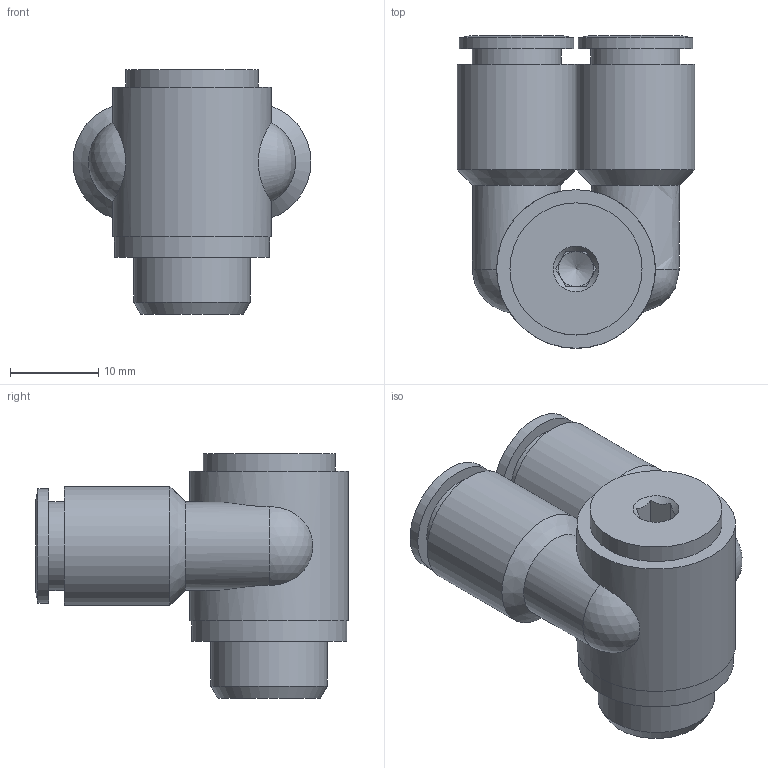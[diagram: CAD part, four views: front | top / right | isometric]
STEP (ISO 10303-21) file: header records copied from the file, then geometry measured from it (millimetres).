
FILE_DESCRIPTION((''),'2;1');
FILE_NAME('C:\Documents and Settings\rivolro1\Documenti\copia di Raccordi\PLASTICA\T15BXXXX\T15B0814.stp','2007-10-31T08:02:57',('Rivolro1'),(''),'Autodesk Inventor 2008','Autodesk Inventor 2008','');
FILE_SCHEMA(('AUTOMOTIVE_DESIGN { 1 0 10303 214 1 1 1 1 }'));
Length unit declared in the file: millimetre
Products named in the file (1): T15B0814
Bounding box: 27 x 35.5 x 27.8 mm (x, y, z)
Volume: 8907.7 mm3; surface area: 5321.1 mm2
Topology: 1 solids, 1 shells, 57 faces, 116 edges, 72 vertices
Faces by surface type: bspline 22, plane 20, cylinder 11, cone 3, sphere 1
Full cylindrical faces by diameter (mm): 6.2 x1, 10 x1, 10.1 x1, 13 x1, 13.2 x1, 13.5 x1, 15 x1, 17.6 x1, 18 x1
Entity records: 1885 total; most frequent: CARTESIAN_POINT 845, DIRECTION 184, ORIENTED_EDGE 170, EDGE_LOOP 92, EDGE_CURVE 85, AXIS2_PLACEMENT_3D 81, VERTEX_POINT 63, FACE_OUTER_BOUND 57
